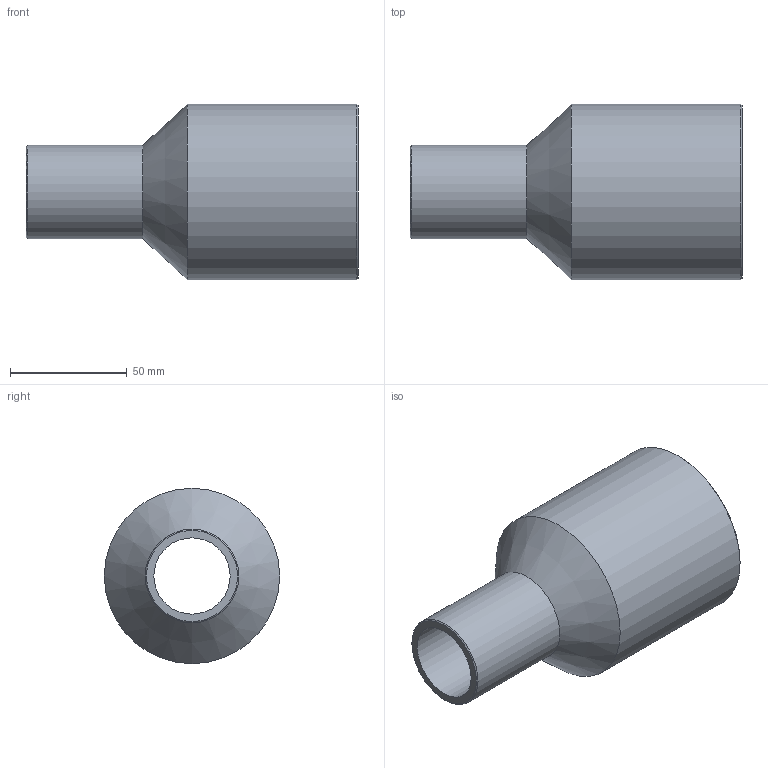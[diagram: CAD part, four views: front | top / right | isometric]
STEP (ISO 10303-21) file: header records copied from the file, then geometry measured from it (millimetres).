
FILE_DESCRIPTION(/* description */ ('Unknown'),/* implementation_level */ '2;1');
FILE_NAME(/* name */ 'RP075040C',/* time_stamp */ '2021-09-17T15:01:34+02:00',/* author */ ('Unknown'),/* organization */ ('Unknown'),/* preprocessor_version */ 'ST-DEVELOPER v16.7',/* originating_system */ 'Solid Edge',/* authorisation */ 'Unknown');
FILE_SCHEMA (('AUTOMOTIVE_DESIGN {1 0 10303 214 3 1 1}'));
Length unit declared in the file: millimetre
Products named in the file (1): RP075040C
Bounding box: 142 x 75 x 75 mm (x, y, z)
Volume: 152042.7 mm3; surface area: 52246.8 mm2
Topology: 1 solids, 1 shells, 10 faces, 19 edges, 11 vertices
Faces by surface type: cylinder 4, cone 4, plane 2
Full cylindrical faces by diameter (mm): 32.6 x1, 40 x1, 61.4 x1, 75 x1
Entity records: 238 total; most frequent: DIRECTION 42, CARTESIAN_POINT 31, AXIS2_PLACEMENT_3D 21, ORIENTED_EDGE 20, EDGE_LOOP 20, FACE_BOUND 20, EDGE_CURVE 10, VERTEX_POINT 10
